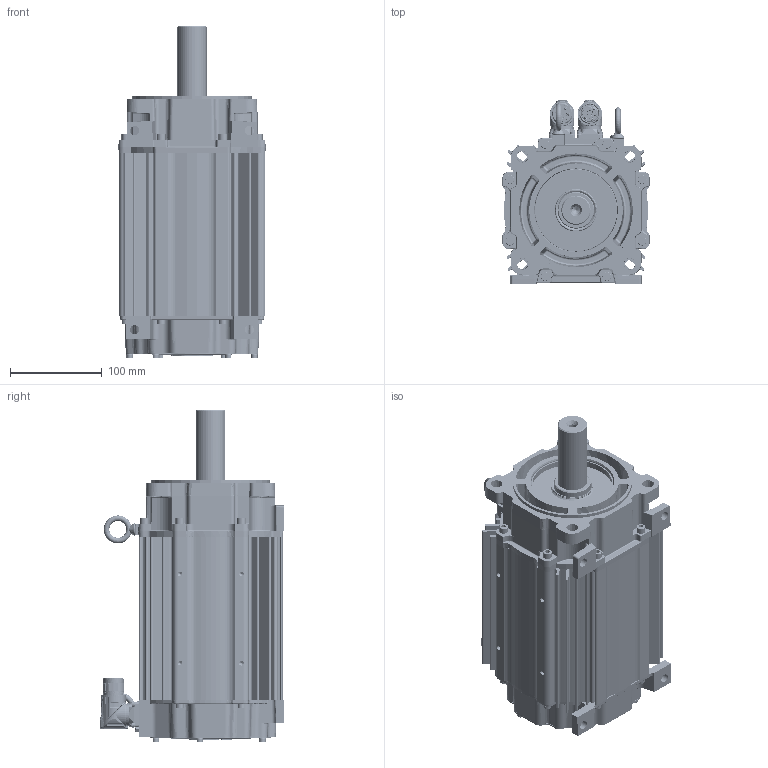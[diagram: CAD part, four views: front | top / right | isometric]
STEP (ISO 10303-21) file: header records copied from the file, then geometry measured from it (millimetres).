
FILE_DESCRIPTION((''),'2;1');
FILE_NAME('10001841014-S_ASM_7_1_2_3_4_5_ASM','2020-01-10T10:45:28',('VThimma'),('Rockwell Automation'),'CREO PARAMETRIC BY PTC INC, 2017380','CREO PARAMETRIC BY PTC INC, 2017380','');
FILE_SCHEMA(('CONFIG_CONTROL_DESIGN','SHAPE_APPEARANCE_LAYERS_GROUPS'));
Length unit declared in the file: inch
Products named in the file (30): 10001406948_1_1_2_3_4_5; 10001392731_AF0_1_1_2_3_4_5; 10001392729_AF3_1_1_2_3_4_5; 10001392735_ASM_1_1_2_3_4_5_ASM; 10001564232_1_1_2_3_4_5; CH25X125_1_1_2_3_4_5; 10001407104_ASM_1_1_2_3_4_5_ASM; 10001393622_KEYLESS_2; 10001838374_ASM_1_1_2_3_4_5_ASM; 10001383815_AF59_1_1_2_3_4_5; 10001383705_AF59_1_1_2_3_4_5; 10001383836_ASM_1_1_2_3_4_5_ASM; 10001586879_1_1_2_3_4_5; 10000172464_1_1_2_3_4_5; 0002-5006_1_1_2_3_4_5; 10001609981_1_1_2_3_4_5; 10000014325-2_1_1_2_3_4_5; 10000014325-1_1_1_2_3_4_5; 10000014326-1_1_1_2_3_4_5; 10000014326-M23_ASM_1_1_2_3_4_5_ASM; 10000014328-M23_1_1_2_3_4_5; 10000014325-M23_ASM_1_1_2_3_4_5_ASM; 10000014325-2_1; 10000014331_1_1_2_3_4_5; 10000014332-460_1_1_2_3_4_5; 10000014330-460_ASM_1_1_2_3_4_5_ASM; 10001384051_1_1_2_3_4_5; 221404-Q12_1_1_2_3_4_5; 0019-1060_1_1_2_3_4_5; 10001841014-S_ASM_7_1_2_3_4_5_ASM
Assembly tree (59 placements, depth 4):
  10001841014-S_ASM_7_1_2_3_4_5_ASM
    10001407104_ASM_1_1_2_3_4_5_ASM
      10001406948_1_1_2_3_4_5
      10001392735_ASM_1_1_2_3_4_5_ASM
        10001392731_AF0_1_1_2_3_4_5
        10001392729_AF3_1_1_2_3_4_5
      10001564232_1_1_2_3_4_5
      CH25X125_1_1_2_3_4_5  x8
    10001838374_ASM_1_1_2_3_4_5_ASM
      10001393622_KEYLESS_2
    10001383836_ASM_1_1_2_3_4_5_ASM
      10001383815_AF59_1_1_2_3_4_5
      10001383705_AF59_1_1_2_3_4_5
    10001586879_1_1_2_3_4_5  x7
    10000172464_1_1_2_3_4_5  x9
    0002-5006_1_1_2_3_4_5  x2
    10001609981_1_1_2_3_4_5
    10000014325-M23_ASM_1_1_2_3_4_5_ASM
      10000014325-2_1_1_2_3_4_5
      10000014325-1_1_1_2_3_4_5
      10000014326-M23_ASM_1_1_2_3_4_5_ASM
        10000014326-1_1_1_2_3_4_5
      10000014328-M23_1_1_2_3_4_5  x4
    10000014330-460_ASM_1_1_2_3_4_5_ASM
      10000014325-2_1
      10000014331_1_1_2_3_4_5
      10000014332-460_1_1_2_3_4_5
    10001384051_1_1_2_3_4_5
    221404-Q12_1_1_2_3_4_5  x6
    0019-1060_1_1_2_3_4_5
Bounding box: 160.35 x 200.35 x 361.7 mm (x, y, z)
Volume: 2165814.5 mm3; surface area: 715700 mm2
Topology: 53 solids, 59 shells, 7507 faces, 20373 edges, 12920 vertices
Faces by surface type: cylinder 2497, plane 1779, bspline 1449, torus 963, cone 689, sphere 125, extrusion 3, revolution 2
Entity records: 338602 total; most frequent: CARTESIAN_POINT 140979, ORIENTED_EDGE 33027, DIRECTION 27100, PRESENTATION_STYLE_ASSIGNMENT 16941, STYLED_ITEM 16567, CURVE_STYLE 16522, EDGE_CURVE 16522, AXIS2_PLACEMENT_3D 11040
